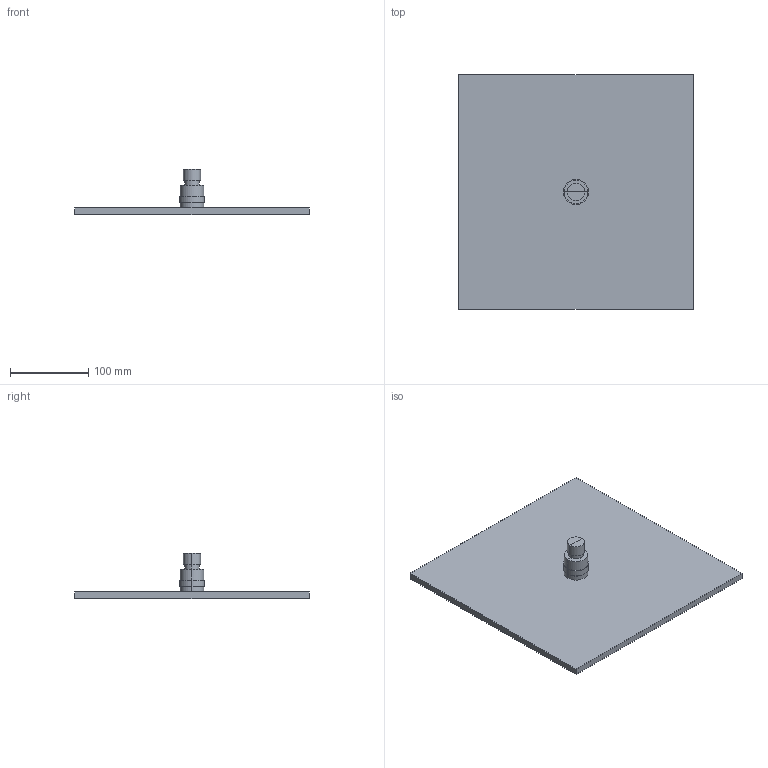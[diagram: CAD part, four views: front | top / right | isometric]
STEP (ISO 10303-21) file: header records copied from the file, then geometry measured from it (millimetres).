
FILE_DESCRIPTION(('FreeCAD Model'),'2;1');
FILE_NAME('Open CASCADE Shape Model','2024-08-12T22:21:35',('Author'),( ''),'Open CASCADE STEP processor 7.6','FreeCAD','Unknown');
FILE_SCHEMA(('AUTOMOTIVE_DESIGN { 1 0 10303 214 1 1 1 1 }'));
Length unit declared in the file: millimetre
Products named in the file (3): TopLevelAssembly; Wyciąganie001; Obrót profilu
Assembly tree (2 placements, depth 2):
  TopLevelAssembly
    Wyciąganie001
    Obrót profilu
Bounding box: 300 x 300 x 57.6 mm (x, y, z)
Volume: 784202.7 mm3; surface area: 196044 mm2
Topology: 2 solids, 2 shells, 28 faces, 52 edges, 28 vertices
Faces by surface type: plane 18, cylinder 10
Entity records: 742 total; most frequent: DIRECTION 134, CARTESIAN_POINT 111, ORIENTED_EDGE 104, EDGE_CURVE 52, AXIS2_PLACEMENT_3D 51, LINE 32, VECTOR 32, ADVANCED_FACE 28
